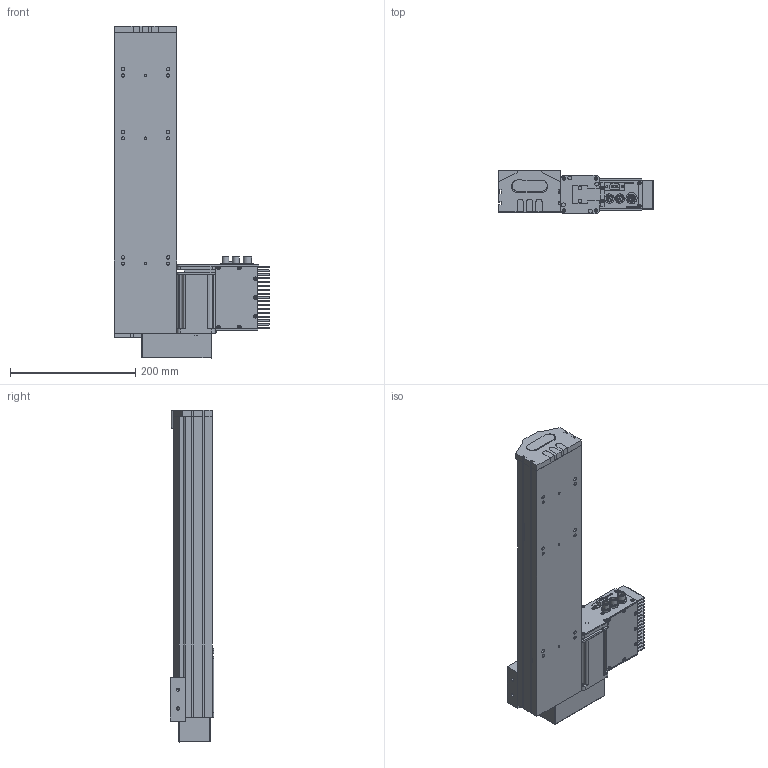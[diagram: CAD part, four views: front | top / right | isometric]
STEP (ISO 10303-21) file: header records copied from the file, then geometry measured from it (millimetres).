
FILE_DESCRIPTION (( 'STEP AP203' ), '1' );
FILE_NAME ('S10 TSN BR S300.STEP', '2012-08-31T13:43:09', ( 'Conseil Régional Haute-Normandie' ), ( 'Conseil Régional Haute-Normandie' ), 'SwSTEP 2.0', 'SolidWorks 2010', '' );
FILE_SCHEMA (( 'CONFIG_CONTROL_DESIGN' ));
Length unit declared in the file: millimetre
Products named in the file (25): Assem1_7; Couvercle_3; Moteur 60BLDC90A_3; T_X2_00F4_X0_le fond_3; T_X2_00F4_X0_le Arri_X2_00E8_X0_re_5; Colonnette ronde_3; renvoi LH_Default; piece_plastique remplie_Default; embout_modifié; S10 TSN BR S300; T_X2_00F4_X0_le contre le moteur_5; BU41 Carte Alimentation P05_3; Colonnette_3; BU45 Carte d''axe A11_5; Connecteur rond D10 3cts_5; Connecteur rond D12 4cts_5; Sub D 9cts 90_X2_00B_X0__3; Radiateur profil_X2_00E9_X0_ 100x25_3; T_X2_00F4_X0_le lat_X2_00E9_X0_rale_5; Vis TF 3 torkx_1_1; axe487; palette tbn; remplir_Default; Pièce2_Default; Vis TF 3 torkx
Assembly tree (55 placements, depth 3):
  S10 TSN BR S300
    renvoi LH_Default
    Vis TF 3 torkx  x7
    piece_plastique remplie_Default
      remplir_Default  x3
      embout_modifié
      Pièce2_Default
    axe487
    Assem1_7
      Connecteur rond D12 4cts_5
      Sub D 9cts 90_X2_00B_X0__3
      Vis TF 3 torkx_1_1  x21
      BU41 Carte Alimentation P05_3
      Connecteur rond D10 3cts_5  x2
      Colonnette ronde_3
      Colonnette_3  x2
      Moteur 60BLDC90A_3
      Couvercle_3
      Radiateur profil_X2_00E9_X0_ 100x25_3
      BU45 Carte d''axe A11_5
      T_X2_00F4_X0_le lat_X2_00E9_X0_rale_5  x2
      T_X2_00F4_X0_le fond_3
      T_X2_00F4_X0_le Arri_X2_00E8_X0_re_5
      T_X2_00F4_X0_le contre le moteur_5
    palette tbn
Bounding box: 248.02 x 69.21 x 529.5 mm (x, y, z)
Volume: 3229447.1 mm3; surface area: 510789.4 mm2
Topology: 53 solids, 53 shells, 1943 faces, 4950 edges, 3226 vertices
Faces by surface type: plane 921, cylinder 859, cone 156, bspline 4, torus 3
Entity records: 37979 total; most frequent: CARTESIAN_POINT 6419, DIRECTION 6155, ORIENTED_EDGE 5608, EDGE_CURVE 2804, AXIS2_PLACEMENT_3D 2251, VERTEX_POINT 1838, LINE 1653, VECTOR 1653
